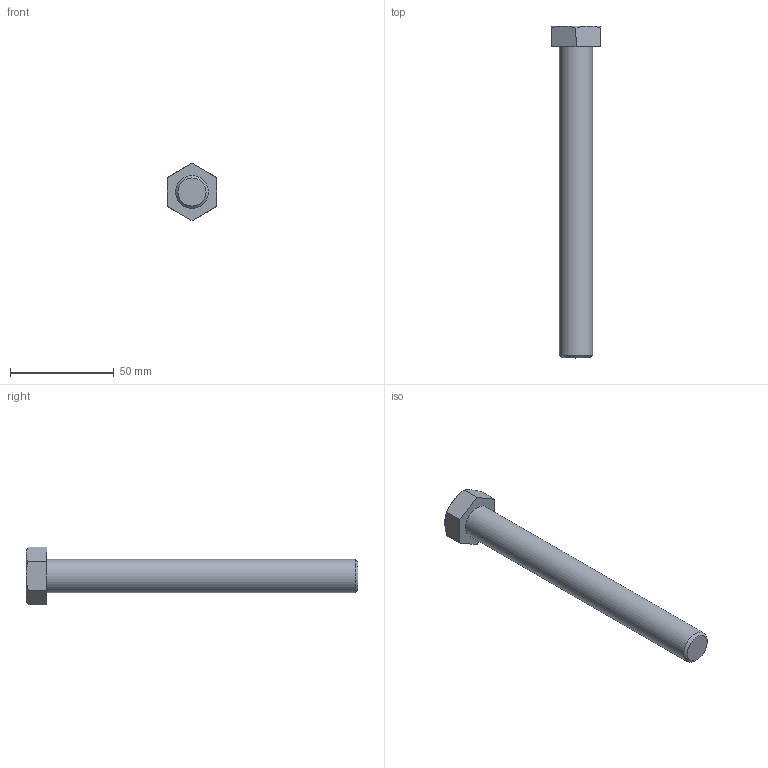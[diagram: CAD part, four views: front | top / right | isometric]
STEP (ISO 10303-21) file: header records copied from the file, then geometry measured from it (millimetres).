
FILE_DESCRIPTION(/* description */ (''),/* implementation_level */ '2;1');
FILE_NAME(/* name */ 'C:\Users\unitec\Documents\Inventor\各種小物\JIS\JIS B 1180 六角ボルト 等級C\hbc16\M16x150.stp',/* time_stamp */ '2015-02-13T14:52:09+09:00',/* author */ ('unitec'),/* organization */ (''),/* preprocessor_version */ 'ST-DEVELOPER v15.2',/* originating_system */ 'Autodesk Inventor 2014',/* authorisation */ '');
FILE_SCHEMA (('AUTOMOTIVE_DESIGN { 1 0 10303 214 3 1 1 }'));
Length unit declared in the file: millimetre
Products named in the file (1): M16x150
Bounding box: 24 x 160 x 27.71 mm (x, y, z)
Volume: 35096.5 mm3; surface area: 9307.3 mm2
Topology: 1 solids, 1 shells, 17 faces, 35 edges, 21 vertices
Faces by surface type: plane 9, cone 7, cylinder 1
Full cylindrical faces by diameter (mm): 16 x1
Entity records: 441 total; most frequent: CARTESIAN_POINT 96, ORIENTED_EDGE 66, DIRECTION 66, EDGE_CURVE 33, AXIS2_PLACEMENT_3D 27, VERTEX_POINT 21, EDGE_LOOP 20, ADVANCED_FACE 17
